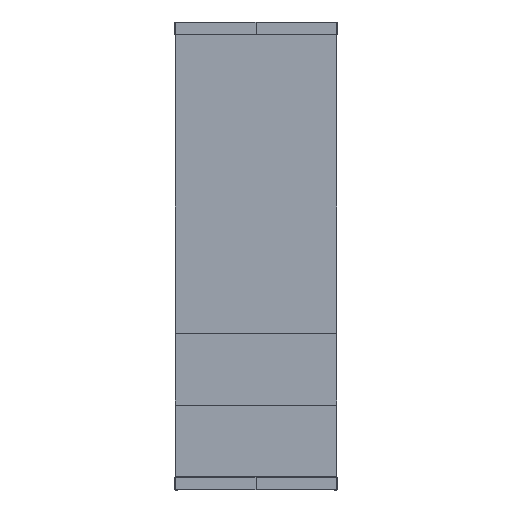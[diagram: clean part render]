
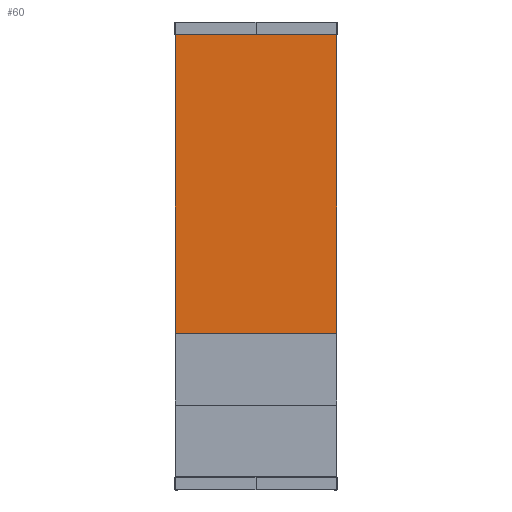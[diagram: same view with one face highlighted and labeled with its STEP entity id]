
A CAD part, top view. The second image highlights one B-rep face of the part: STEP entity #60.
In plain terms, the highlighted planar face has unit normal (0, 0, 1).
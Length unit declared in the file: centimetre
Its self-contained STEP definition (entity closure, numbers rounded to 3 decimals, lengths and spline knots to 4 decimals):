
#60=ADVANCED_FACE($,(#226),#1956,.T.);
#226=FACE_OUTER_BOUND($,#392,.T.);
#392=EDGE_LOOP($,(#604,#605,#606,#607));
#604=ORIENTED_EDGE($,*,*,#1336,.F.);
#605=ORIENTED_EDGE($,*,*,#1335,.F.);
#606=ORIENTED_EDGE($,*,*,#1334,.F.);
#607=ORIENTED_EDGE($,*,*,#1333,.F.);
#1333=EDGE_CURVE($,#1708,#1709,#2129,.T.);
#1334=EDGE_CURVE($,#1709,#1710,#2130,.T.);
#1335=EDGE_CURVE($,#1710,#1711,#2131,.T.);
#1336=EDGE_CURVE($,#1711,#1708,#2132,.T.);
#1708=VERTEX_POINT($,#2997);
#1709=VERTEX_POINT($,#2998);
#1710=VERTEX_POINT($,#2999);
#1711=VERTEX_POINT($,#3000);
#1956=PLANE($,#2590);
#2129=B_SPLINE_CURVE_WITH_KNOTS($,1,(#2971,#2972),.UNSPECIFIED.,.F.,.F.,
(2,2),(0.,166.),.UNSPECIFIED.);
#2130=B_SPLINE_CURVE_WITH_KNOTS($,1,(#2973,#2974),.UNSPECIFIED.,.F.,.F.,
(2,2),(0.,89.9),.UNSPECIFIED.);
#2131=B_SPLINE_CURVE_WITH_KNOTS($,1,(#2975,#2976),.UNSPECIFIED.,.F.,.F.,
(2,2),(0.,166.),.UNSPECIFIED.);
#2132=B_SPLINE_CURVE_WITH_KNOTS($,1,(#2977,#2978),.UNSPECIFIED.,.F.,.F.,
(2,2),(0.,89.9),.UNSPECIFIED.);
#2590=AXIS2_PLACEMENT_3D($,#2992,#2759,$);
#2759=DIRECTION($,(0.,0.,1.));
#2971=CARTESIAN_POINT($,(-182.95,-521.,74.51));
#2972=CARTESIAN_POINT($,(-182.95,-355.,74.51));
#2973=CARTESIAN_POINT($,(-182.95,-355.,74.51));
#2974=CARTESIAN_POINT($,(-93.05,-355.,74.51));
#2975=CARTESIAN_POINT($,(-93.05,-355.,74.51));
#2976=CARTESIAN_POINT($,(-93.05,-521.,74.51));
#2977=CARTESIAN_POINT($,(-93.05,-521.,74.51));
#2978=CARTESIAN_POINT($,(-182.95,-521.,74.51));
#2992=CARTESIAN_POINT($,(-182.95,-521.,74.51));
#2997=CARTESIAN_POINT($,(-182.95,-521.,74.51));
#2998=CARTESIAN_POINT($,(-182.95,-355.,74.51));
#2999=CARTESIAN_POINT($,(-93.05,-355.,74.51));
#3000=CARTESIAN_POINT($,(-93.05,-521.,74.51));
